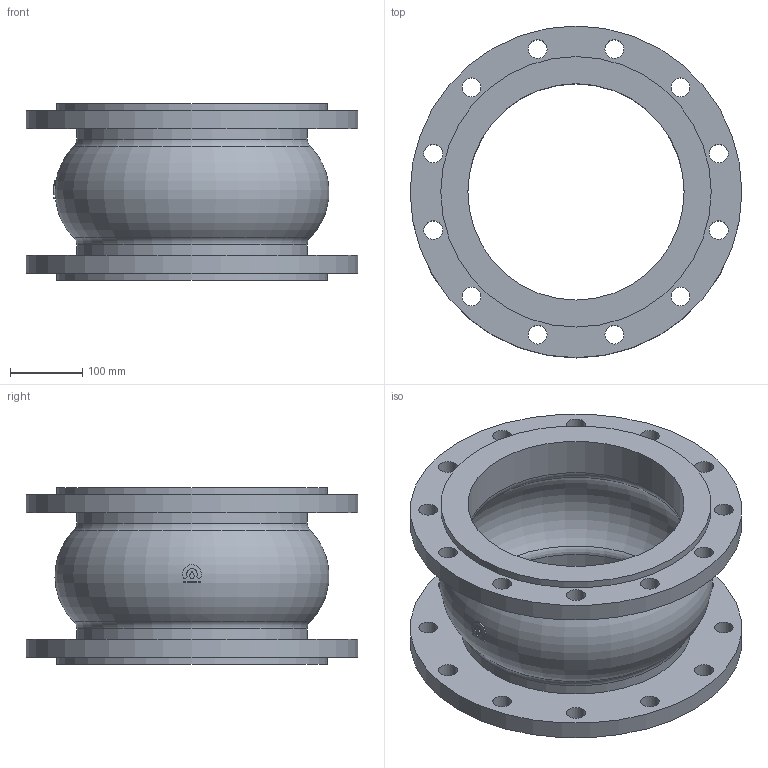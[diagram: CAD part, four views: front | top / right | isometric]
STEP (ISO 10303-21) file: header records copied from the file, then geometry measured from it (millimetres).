
FILE_DESCRIPTION(('STEP AP203'), '1');
FILE_NAME('Êîìïåíñàòîð KMS DN300 PN16', '', ('UNSPECIFIED'), ('UNSPECIFIED'), 'ASCON STEP Converter 1.6', 'ASCON Math Kernel', '');
FILE_SCHEMA(('CONFIG_CONTROL_DESIGN'));
Length unit declared in the file: millimetre
Bounding box: 460 x 460 x 245 mm (x, y, z)
Volume: 7311750.6 mm3; surface area: 957396.9 mm2
Topology: 1 solids, 1 shells, 61 faces, 148 edges, 96 vertices
Faces by surface type: cylinder 39, plane 13, torus 9
Full cylindrical faces by diameter (mm): 26 x24, 300 x2, 320 x2, 375 x2, 460 x2
Entity records: 3269 total; most frequent: CARTESIAN_POINT 1336, DIRECTION 286, ORIENTED_EDGE 220, EDGE_LOOP 156, AXIS2_PLACEMENT_3D 136, EDGE_CURVE 110, VERTEX_POINT 96, FACE_BOUND 80
